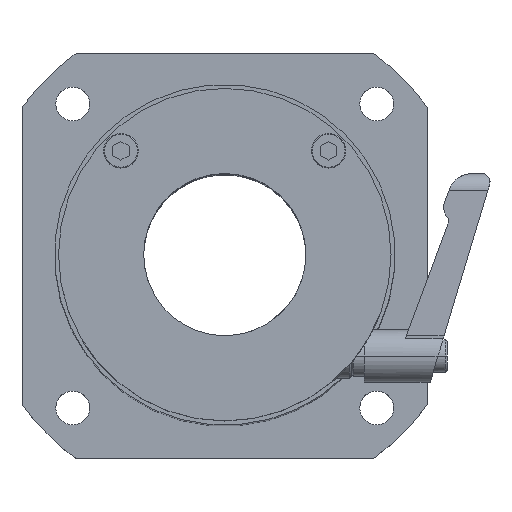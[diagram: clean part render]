
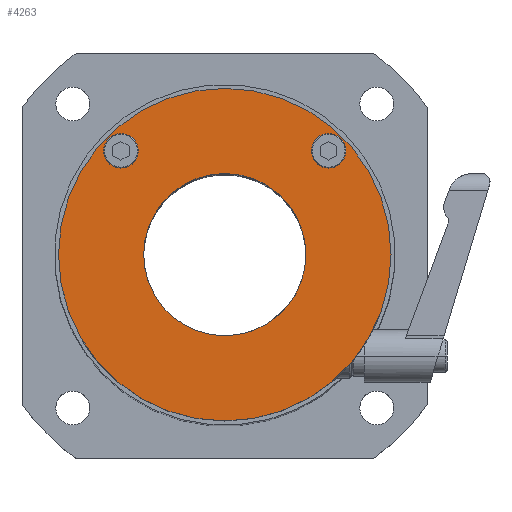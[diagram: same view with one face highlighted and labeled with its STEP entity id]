
A CAD part, top view. The second image highlights one B-rep face of the part: STEP entity #4263.
In plain terms, the highlighted planar face has unit normal (0, 0, 1).
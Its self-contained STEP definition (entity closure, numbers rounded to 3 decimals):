
#123 = CARTESIAN_POINT ( 'NONE',  ( 25.822, 22.549, 92. ) ) ;
#146 = CARTESIAN_POINT ( 'NONE',  ( 0.222, -3.051, 92. ) ) ;
#316 = AXIS2_PLACEMENT_3D ( 'NONE', #6069, #9000, #403 ) ;
#393 = AXIS2_PLACEMENT_3D ( 'NONE', #5320, #8221, #6174 ) ;
#403 = DIRECTION ( 'NONE',  ( 1., 0., 0. ) ) ;
#524 = ORIENTED_EDGE ( 'NONE', *, *, #1454, .F. ) ;
#610 = AXIS2_PLACEMENT_3D ( 'NONE', #3647, #2956, #7274 ) ;
#851 = VERTEX_POINT ( 'NONE', #994 ) ;
#980 = CIRCLE ( 'NONE', #7327, 4.25 ) ;
#994 = CARTESIAN_POINT ( 'NONE',  ( -19.778, -3.051, 92. ) ) ;
#1046 = VERTEX_POINT ( 'NONE', #9259 ) ;
#1191 = EDGE_CURVE ( 'NONE', #8779, #3886, #6569, .T. ) ;
#1332 = DIRECTION ( 'NONE',  ( 0., 0., 1. ) ) ;
#1406 = EDGE_LOOP ( 'NONE', ( #4712, #6258 ) ) ;
#1454 = EDGE_CURVE ( 'NONE', #851, #7260, #4897, .T. ) ;
#1632 = EDGE_CURVE ( 'NONE', #3886, #8779, #980, .T. ) ;
#1635 = CARTESIAN_POINT ( 'NONE',  ( -29.628, 22.549, 92. ) ) ;
#1675 = EDGE_LOOP ( 'NONE', ( #4147, #6296 ) ) ;
#1808 = DIRECTION ( 'NONE',  ( 0., 0., 1. ) ) ;
#1847 = CIRCLE ( 'NONE', #5919, 4.25 ) ;
#2176 = FACE_BOUND ( 'NONE', #1406, .T. ) ;
#2179 = DIRECTION ( 'NONE',  ( 0., 0., 1. ) ) ;
#2181 = VERTEX_POINT ( 'NONE', #8810 ) ;
#2614 = CIRCLE ( 'NONE', #2761, 41. ) ;
#2761 = AXIS2_PLACEMENT_3D ( 'NONE', #146, #2179, #5903 ) ;
#2772 = EDGE_LOOP ( 'NONE', ( #524, #4065 ) ) ;
#2798 = CARTESIAN_POINT ( 'NONE',  ( 21.572, 22.549, 92. ) ) ;
#2922 = FACE_OUTER_BOUND ( 'NONE', #1675, .T. ) ;
#2956 = DIRECTION ( 'NONE',  ( 0., 0., 1. ) ) ;
#2968 = DIRECTION ( 'NONE',  ( 1., 0., 0. ) ) ;
#2996 = DIRECTION ( 'NONE',  ( 1., 0., 0. ) ) ;
#3005 = CARTESIAN_POINT ( 'NONE',  ( 0.222, -3.051, 92. ) ) ;
#3011 = PLANE ( 'NONE',  #9083 ) ;
#3313 = CIRCLE ( 'NONE', #316, 4.25 ) ;
#3331 = CIRCLE ( 'NONE', #5447, 20. ) ;
#3512 = DIRECTION ( 'NONE',  ( 1., 0., 0. ) ) ;
#3647 = CARTESIAN_POINT ( 'NONE',  ( 0.222, -3.051, 92. ) ) ;
#3886 = VERTEX_POINT ( 'NONE', #1635 ) ;
#4065 = ORIENTED_EDGE ( 'NONE', *, *, #4742, .F. ) ;
#4147 = ORIENTED_EDGE ( 'NONE', *, *, #8030, .T. ) ;
#4263 = ADVANCED_FACE ( 'NONE', ( #2176, #7394, #2922, #7954 ), #3011, .T. ) ;
#4712 = ORIENTED_EDGE ( 'NONE', *, *, #7796, .F. ) ;
#4742 = EDGE_CURVE ( 'NONE', #7260, #851, #3331, .T. ) ;
#4856 = EDGE_LOOP ( 'NONE', ( #8624, #5788 ) ) ;
#4896 = EDGE_CURVE ( 'NONE', #6720, #5871, #3313, .T. ) ;
#4897 = CIRCLE ( 'NONE', #5943, 20. ) ;
#4969 = CARTESIAN_POINT ( 'NONE',  ( -21.128, 22.549, 92. ) ) ;
#5248 = DIRECTION ( 'NONE',  ( 1., 0., 0. ) ) ;
#5320 = CARTESIAN_POINT ( 'NONE',  ( -25.378, 22.549, 92. ) ) ;
#5364 = EDGE_CURVE ( 'NONE', #2181, #1046, #9204, .T. ) ;
#5447 = AXIS2_PLACEMENT_3D ( 'NONE', #3005, #5891, #8925 ) ;
#5788 = ORIENTED_EDGE ( 'NONE', *, *, #1191, .F. ) ;
#5871 = VERTEX_POINT ( 'NONE', #2798 ) ;
#5891 = DIRECTION ( 'NONE',  ( 0., 0., 1. ) ) ;
#5903 = DIRECTION ( 'NONE',  ( 1., 0., 0. ) ) ;
#5919 = AXIS2_PLACEMENT_3D ( 'NONE', #123, #7939, #2996 ) ;
#5943 = AXIS2_PLACEMENT_3D ( 'NONE', #7811, #1332, #3512 ) ;
#6069 = CARTESIAN_POINT ( 'NONE',  ( 25.822, 22.549, 92. ) ) ;
#6174 = DIRECTION ( 'NONE',  ( 1., 0., 0. ) ) ;
#6258 = ORIENTED_EDGE ( 'NONE', *, *, #4896, .F. ) ;
#6296 = ORIENTED_EDGE ( 'NONE', *, *, #5364, .T. ) ;
#6569 = CIRCLE ( 'NONE', #393, 4.25 ) ;
#6720 = VERTEX_POINT ( 'NONE', #8210 ) ;
#7243 = DIRECTION ( 'NONE',  ( 0., 0., 1. ) ) ;
#7260 = VERTEX_POINT ( 'NONE', #7911 ) ;
#7274 = DIRECTION ( 'NONE',  ( 1., 0., 0. ) ) ;
#7327 = AXIS2_PLACEMENT_3D ( 'NONE', #7511, #1808, #5248 ) ;
#7394 = FACE_BOUND ( 'NONE', #4856, .T. ) ;
#7511 = CARTESIAN_POINT ( 'NONE',  ( -25.378, 22.549, 92. ) ) ;
#7796 = EDGE_CURVE ( 'NONE', #5871, #6720, #1847, .T. ) ;
#7811 = CARTESIAN_POINT ( 'NONE',  ( 0.222, -3.051, 92. ) ) ;
#7911 = CARTESIAN_POINT ( 'NONE',  ( 20.222, -3.051, 92. ) ) ;
#7939 = DIRECTION ( 'NONE',  ( 0., 0., 1. ) ) ;
#7954 = FACE_BOUND ( 'NONE', #2772, .T. ) ;
#8030 = EDGE_CURVE ( 'NONE', #1046, #2181, #2614, .T. ) ;
#8040 = CARTESIAN_POINT ( 'NONE',  ( 0.222, -3.051, 92. ) ) ;
#8210 = CARTESIAN_POINT ( 'NONE',  ( 30.072, 22.549, 92. ) ) ;
#8221 = DIRECTION ( 'NONE',  ( 0., 0., 1. ) ) ;
#8624 = ORIENTED_EDGE ( 'NONE', *, *, #1632, .F. ) ;
#8779 = VERTEX_POINT ( 'NONE', #4969 ) ;
#8810 = CARTESIAN_POINT ( 'NONE',  ( 41.222, -3.051, 92. ) ) ;
#8925 = DIRECTION ( 'NONE',  ( 1., 0., 0. ) ) ;
#9000 = DIRECTION ( 'NONE',  ( 0., 0., 1. ) ) ;
#9083 = AXIS2_PLACEMENT_3D ( 'NONE', #8040, #7243, #2968 ) ;
#9204 = CIRCLE ( 'NONE', #610, 41. ) ;
#9259 = CARTESIAN_POINT ( 'NONE',  ( -40.778, -3.051, 92. ) ) ;
